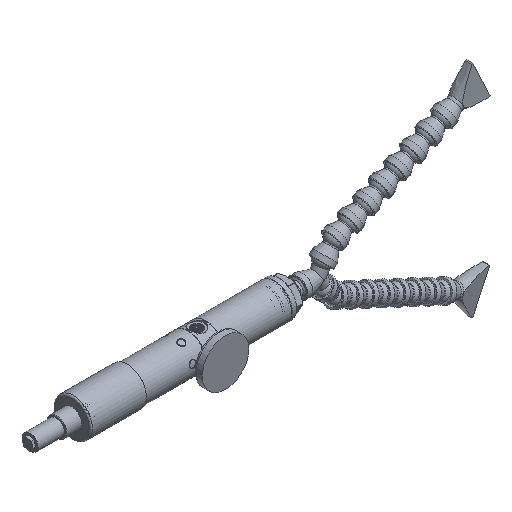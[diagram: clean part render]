
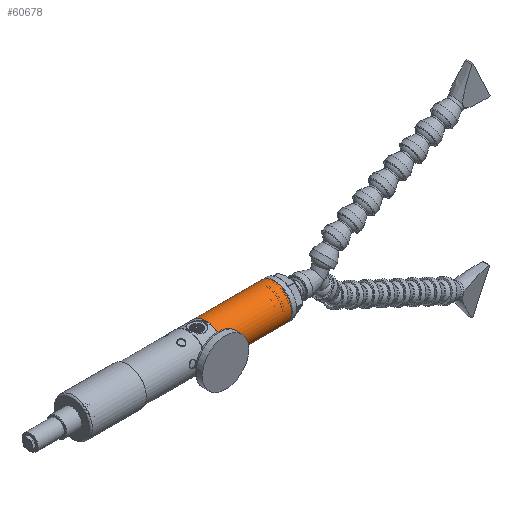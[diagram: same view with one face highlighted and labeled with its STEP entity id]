
A CAD part, isometric view. The second image highlights one B-rep face of the part: STEP entity #60678.
In plain terms, the highlighted cylindrical face has radius 21.5 mm (diameter 43 mm), a full revolution.
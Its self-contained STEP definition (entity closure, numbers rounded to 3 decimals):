
#3611 = CARTESIAN_POINT ( 'NONE',  ( 10.95, 35., 0. ) ) ;
#8270 = EDGE_LOOP ( 'NONE', ( #47164 ) ) ;
#13746 = VERTEX_POINT ( 'NONE', #25357 ) ;
#14209 = DIRECTION ( 'NONE',  ( 0., -0.937, -0.35 ) ) ;
#14899 = EDGE_CURVE ( 'NONE', #13746, #13746, #53445, .T. ) ;
#16587 = AXIS2_PLACEMENT_3D ( 'NONE', #3611, #65266, #60756 ) ;
#18826 = FACE_OUTER_BOUND ( 'NONE', #63659, .T. ) ;
#23525 = AXIS2_PLACEMENT_3D ( 'NONE', #37945, #64236, #43034 ) ;
#25357 = CARTESIAN_POINT ( 'NONE',  ( 94.45, 14.859, -7.524 ) ) ;
#29301 = DIRECTION ( 'NONE',  ( -1., 0., 0. ) ) ;
#33840 = CARTESIAN_POINT ( 'NONE',  ( 10.95, 14.859, -7.524 ) ) ;
#37945 = CARTESIAN_POINT ( 'NONE',  ( 10.7, 35., 0. ) ) ;
#43034 = DIRECTION ( 'NONE',  ( 0., 0.937, 0.35 ) ) ;
#44994 = CARTESIAN_POINT ( 'NONE',  ( 94.45, 35., 0. ) ) ;
#47164 = ORIENTED_EDGE ( 'NONE', *, *, #14899, .T. ) ;
#50223 = AXIS2_PLACEMENT_3D ( 'NONE', #44994, #29301, #14209 ) ;
#50292 = ORIENTED_EDGE ( 'NONE', *, *, #51525, .T. ) ;
#51525 = EDGE_CURVE ( 'NONE', #64932, #64932, #54797, .T. ) ;
#53445 = CIRCLE ( 'NONE', #50223, 21.5 ) ;
#54797 = CIRCLE ( 'NONE', #16587, 21.5 ) ;
#55079 = FACE_OUTER_BOUND ( 'NONE', #8270, .T. ) ;
#60678 = ADVANCED_FACE ( 'NONE', ( #18826, #55079 ), #60875, .T. ) ;
#60756 = DIRECTION ( 'NONE',  ( 0., -0.937, -0.35 ) ) ;
#60875 = CYLINDRICAL_SURFACE ( 'NONE', #23525, 21.5 ) ;
#63659 = EDGE_LOOP ( 'NONE', ( #50292 ) ) ;
#64236 = DIRECTION ( 'NONE',  ( 1., 0., 0. ) ) ;
#64932 = VERTEX_POINT ( 'NONE', #33840 ) ;
#65266 = DIRECTION ( 'NONE',  ( 1., 0., 0. ) ) ;
